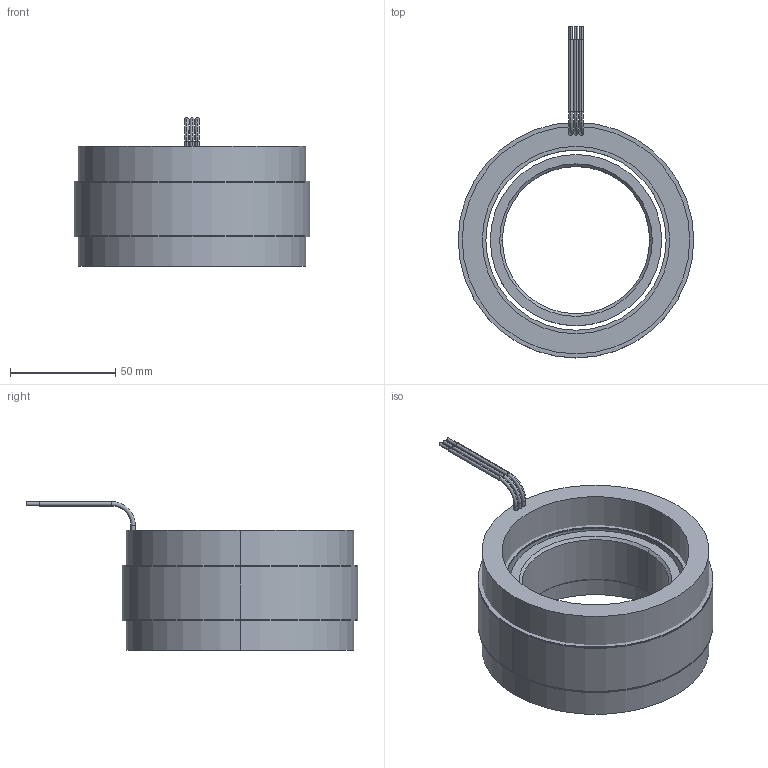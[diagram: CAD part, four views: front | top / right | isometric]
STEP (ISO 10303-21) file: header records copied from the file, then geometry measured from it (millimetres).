
FILE_DESCRIPTION (( 'STEP AP214' ), '1' );
FILE_NAME ('6100255-01.STEP', '2019-11-11T17:40:24', ( '' ), ( '' ), 'SwSTEP 2.0', 'SolidWorks 2016', '' );
FILE_SCHEMA (( 'AUTOMOTIVE_DESIGN' ));
Length unit declared in the file: millimetre
Products named in the file (11): 4150144-XX_4150144-01; 4450154-XX_4450154-01; 4400054-00; 6100255-01; 4250340-XX_4250340-01; 4600515-00; 4500516-XX_4500516-01; COMP4500516-XX(COIL)_COMP4500516-01(COIL)
Assembly tree (10 placements, depth 4):
  6100255-01
    4500516-XX_4500516-01
      4450154-XX_4450154-01
        4450154-XX_4450154-01
        4400054-00
        4400054-00
        4600515-00
        4600515-00
      COMP4500516-XX(COIL)_COMP4500516-01(COIL)
    4250340-XX_4250340-01
      4150144-XX_4150144-01
Bounding box: 111.76 x 157.42 x 70.61 mm (x, y, z)
Volume: 309712.1 mm3; surface area: 113694.9 mm2
Topology: 7 solids, 7 shells, 76 faces, 152 edges, 96 vertices
Faces by surface type: cylinder 46, plane 20, torus 6, cone 4
Entity records: 2446 total; most frequent: DIRECTION 438, CARTESIAN_POINT 340, ORIENTED_EDGE 304, AXIS2_PLACEMENT_3D 194, EDGE_CURVE 152, CIRCLE 102, VERTEX_POINT 96, EDGE_LOOP 96
